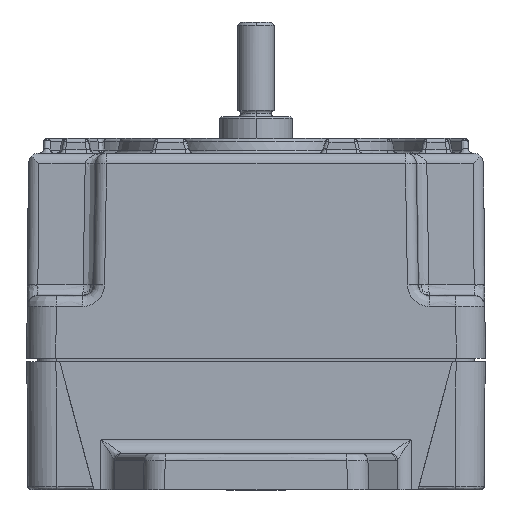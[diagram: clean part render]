
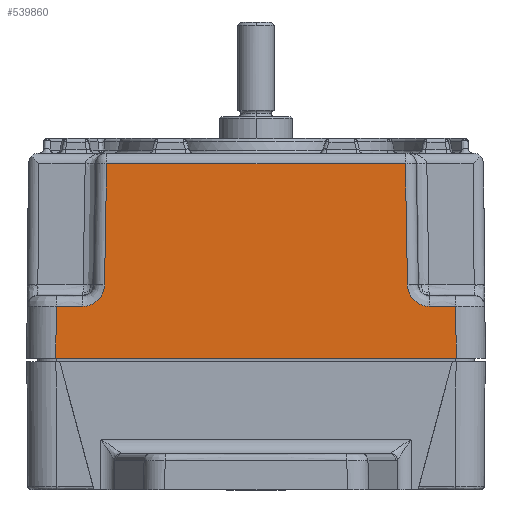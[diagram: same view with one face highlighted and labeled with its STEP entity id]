
A CAD part, left-side view. The second image highlights one B-rep face of the part: STEP entity #539860.
In plain terms, the highlighted planar face has unit normal (-1, 0, 0.009).
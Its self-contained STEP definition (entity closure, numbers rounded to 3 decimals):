
#255090=CARTESIAN_POINT('',(-49.772,20.52,
44.013));
#255100=VERTEX_POINT('',#255090);
#329450=CARTESIAN_POINT('',(-49.943,27.443,
24.433));
#329460=VERTEX_POINT('',#329450);
#385610=CARTESIAN_POINT('',(-49.943,23.77,
24.435));
#385620=VERTEX_POINT('',#385610);
#385650=CARTESIAN_POINT('',(-49.943,23.77,
24.435));
#385660=CARTESIAN_POINT('',(-49.943,23.854,
24.435));
#385670=CARTESIAN_POINT('',(-49.943,23.945,
24.433));
#385680=CARTESIAN_POINT('',(-49.943,24.556,
24.433));
#385690=CARTESIAN_POINT('',(-49.943,25.091,
24.433));
#385700=CARTESIAN_POINT('',(-49.943,26.732,
24.433));
#385710=CARTESIAN_POINT('',(-49.943,27.838,
24.433));
#385720=CARTESIAN_POINT('',(-49.943,28.943,
24.433));
#385730=B_SPLINE_CURVE_WITH_KNOTS('',3,(#385650,#385660,#385670,#385680,
#385690,#385700,#385710,#385720),.UNSPECIFIED.,.F.,.F.,(4,2,2,4),(0.,
0.227,1.833,5.15),.UNSPECIFIED.);
#385740=EDGE_CURVE('',#385620,#329460,#385730,.T.);
#386700=CARTESIAN_POINT('',(-49.917,20.81,
27.407));
#386710=VERTEX_POINT('',#386700);
#386740=CARTESIAN_POINT('',(-49.917,20.81,
27.407));
#386750=CARTESIAN_POINT('',(-49.917,20.811,
27.398));
#386760=CARTESIAN_POINT('',(-49.917,20.811,
27.388));
#386770=CARTESIAN_POINT('',(-49.918,20.811,
27.369));
#386780=CARTESIAN_POINT('',(-49.918,20.811,
27.359));
#386790=CARTESIAN_POINT('',(-49.918,20.811,
27.344));
#386800=CARTESIAN_POINT('',(-49.918,20.812,
27.312));
#386810=CARTESIAN_POINT('',(-49.918,20.814,
27.262));
#386820=CARTESIAN_POINT('',(-49.919,20.817,
27.217));
#386830=CARTESIAN_POINT('',(-49.92,20.826,
27.113));
#386840=CARTESIAN_POINT('',(-49.921,20.836,
27.028));
#386850=CARTESIAN_POINT('',(-49.925,20.923,
26.497));
#386860=CARTESIAN_POINT('',(-49.93,21.129,
25.996));
#386870=CARTESIAN_POINT('',(-49.936,21.737,
25.208));
#386880=CARTESIAN_POINT('',(-49.939,22.136,
24.894));
#386890=CARTESIAN_POINT('',(-49.942,22.816,
24.592));
#386900=CARTESIAN_POINT('',(-49.942,23.068,
24.517));
#386910=CARTESIAN_POINT('',(-49.943,23.35,
24.468));
#386920=CARTESIAN_POINT('',(-49.943,23.405,
24.461));
#386930=CARTESIAN_POINT('',(-49.943,23.556,
24.445));
#386940=CARTESIAN_POINT('',(-49.943,23.667,
24.439));
#386950=CARTESIAN_POINT('',(-49.943,23.77,
24.435));
#386960=B_SPLINE_CURVE_WITH_KNOTS('',3,(#386740,#386750,#386760,#386770,
#386780,#386790,#386800,#386810,#386820,#386830,#386840,#386850,#386860,
#386870,#386880,#386890,#386900,#386910,#386920,#386930,#386940,#386950)
,.UNSPECIFIED.,.F.,.F.,(4,2,2,2,2,2,2,2,2,2,4),(0.,0.466,
0.931,1.088,1.275,1.532,
2.98,4.413,5.122,5.294,
5.596),.UNSPECIFIED.);
#386970=EDGE_CURVE('',#386710,#385620,#386960,.T.);
#387240=CARTESIAN_POINT('',(-49.794,20.563,
41.513));
#387250=DIRECTION('',(-0.009,0.017,
-1.));
#387260=VECTOR('',#387250,1.);
#387270=LINE('',#387240,#387260);
#387280=EDGE_CURVE('',#255100,#386710,#387270,.T.);
#488120=CARTESIAN_POINT('',(-49.943,-27.443,
24.433));
#488130=VERTEX_POINT('',#488120);
#538890=CARTESIAN_POINT('',(-49.943,-23.77,
24.435));
#538900=CARTESIAN_POINT('',(-49.943,-23.854,
24.435));
#538910=CARTESIAN_POINT('',(-49.943,-23.945,
24.433));
#538920=CARTESIAN_POINT('',(-49.943,-24.556,
24.433));
#538930=CARTESIAN_POINT('',(-49.943,-25.091,
24.433));
#538940=CARTESIAN_POINT('',(-49.943,-26.732,
24.433));
#538950=CARTESIAN_POINT('',(-49.943,-27.838,
24.433));
#538960=CARTESIAN_POINT('',(-49.943,-28.943,
24.433));
#538970=B_SPLINE_CURVE_WITH_KNOTS('',3,(#538890,#538900,#538910,#538920,
#538930,#538940,#538950,#538960),.UNSPECIFIED.,.F.,.F.,(4,2,2,4),(0.,
0.227,1.833,5.15),.UNSPECIFIED.);
#538980=CARTESIAN_POINT('',(-49.943,-23.77,
24.435));
#538990=VERTEX_POINT('',#538980);
#539000=EDGE_CURVE('',#538990,#488130,#538970,.T.);
#539120=CARTESIAN_POINT('',(-50.,-7.697,
17.92));
#539130=DIRECTION('',(1.,0.,-0.009));
#539140=DIRECTION('',(0.,-1.,0.));
#539150=AXIS2_PLACEMENT_3D('',#539120,#539130,#539140);
#539160=PLANE('',#539150);
#539170=CARTESIAN_POINT('',(-50.005,7.697,
17.3));
#539180=DIRECTION('',(0.,1.,0.));
#539190=VECTOR('',#539180,1.);
#539200=LINE('',#539170,#539190);
#539210=CARTESIAN_POINT('',(-50.005,-27.506,
17.3));
#539220=VERTEX_POINT('',#539210);
#539230=CARTESIAN_POINT('',(-50.005,27.506,
17.3));
#539240=VERTEX_POINT('',#539230);
#539250=EDGE_CURVE('',#539220,#539240,#539200,.T.);
#539260=ORIENTED_EDGE('',*,*,#539250,.F.);
#539270=CARTESIAN_POINT('',(-49.947,27.447,
24.003));
#539280=DIRECTION('',(-0.009,0.009,
-1.));
#539290=VECTOR('',#539280,1.);
#539300=LINE('',#539270,#539290);
#539310=EDGE_CURVE('',#329460,#539240,#539300,.T.);
#539320=ORIENTED_EDGE('',*,*,#539310,.T.);
#539330=ORIENTED_EDGE('',*,*,#385740,.T.);
#539340=ORIENTED_EDGE('',*,*,#386970,.T.);
#539350=ORIENTED_EDGE('',*,*,#387280,.T.);
#539360=CARTESIAN_POINT('',(-49.772,-7.697,
44.013));
#539370=DIRECTION('',(0.,1.,0.));
#539380=VECTOR('',#539370,1.);
#539390=LINE('',#539360,#539380);
#539400=CARTESIAN_POINT('',(-49.772,-20.52,
44.013));
#539410=VERTEX_POINT('',#539400);
#539420=EDGE_CURVE('',#539410,#255100,#539390,.T.);
#539430=ORIENTED_EDGE('',*,*,#539420,.T.);
#539440=CARTESIAN_POINT('',(-49.794,-20.563,
41.513));
#539450=DIRECTION('',(-0.009,-0.017,
-1.));
#539460=VECTOR('',#539450,1.);
#539470=LINE('',#539440,#539460);
#539480=CARTESIAN_POINT('',(-49.917,-20.81,
27.407));
#539490=VERTEX_POINT('',#539480);
#539500=EDGE_CURVE('',#539410,#539490,#539470,.T.);
#539510=ORIENTED_EDGE('',*,*,#539500,.F.);
#539520=CARTESIAN_POINT('',(-49.917,-20.81,
27.407));
#539530=CARTESIAN_POINT('',(-49.917,-20.811,
27.398));
#539540=CARTESIAN_POINT('',(-49.917,-20.811,
27.388));
#539550=CARTESIAN_POINT('',(-49.918,-20.811,
27.369));
#539560=CARTESIAN_POINT('',(-49.918,-20.811,
27.359));
#539570=CARTESIAN_POINT('',(-49.918,-20.811,
27.344));
#539580=CARTESIAN_POINT('',(-49.918,-20.812,
27.312));
#539590=CARTESIAN_POINT('',(-49.918,-20.814,
27.262));
#539600=CARTESIAN_POINT('',(-49.919,-20.817,
27.217));
#539610=CARTESIAN_POINT('',(-49.92,-20.826,
27.113));
#539620=CARTESIAN_POINT('',(-49.921,-20.836,
27.028));
#539630=CARTESIAN_POINT('',(-49.925,-20.923,
26.497));
#539640=CARTESIAN_POINT('',(-49.93,-21.129,
25.996));
#539650=CARTESIAN_POINT('',(-49.936,-21.737,
25.208));
#539660=CARTESIAN_POINT('',(-49.939,-22.136,
24.894));
#539670=CARTESIAN_POINT('',(-49.942,-22.816,
24.592));
#539680=CARTESIAN_POINT('',(-49.942,-23.068,
24.517));
#539690=CARTESIAN_POINT('',(-49.943,-23.35,
24.468));
#539700=CARTESIAN_POINT('',(-49.943,-23.405,
24.461));
#539710=CARTESIAN_POINT('',(-49.943,-23.556,
24.445));
#539720=CARTESIAN_POINT('',(-49.943,-23.667,
24.439));
#539730=CARTESIAN_POINT('',(-49.943,-23.77,
24.435));
#539740=B_SPLINE_CURVE_WITH_KNOTS('',3,(#539520,#539530,#539540,#539550,
#539560,#539570,#539580,#539590,#539600,#539610,#539620,#539630,#539640,
#539650,#539660,#539670,#539680,#539690,#539700,#539710,#539720,#539730)
,.UNSPECIFIED.,.F.,.F.,(4,2,2,2,2,2,2,2,2,2,4),(0.,0.466,
0.931,1.088,1.275,1.532,
2.98,4.413,5.122,5.294,
5.596),.UNSPECIFIED.);
#539750=EDGE_CURVE('',#539490,#538990,#539740,.T.);
#539760=ORIENTED_EDGE('',*,*,#539750,.F.);
#539770=ORIENTED_EDGE('',*,*,#539000,.F.);
#539780=CARTESIAN_POINT('',(-49.947,-27.447,
24.003));
#539790=DIRECTION('',(-0.009,-0.009,
-1.));
#539800=VECTOR('',#539790,1.);
#539810=LINE('',#539780,#539800);
#539820=EDGE_CURVE('',#488130,#539220,#539810,.T.);
#539830=ORIENTED_EDGE('',*,*,#539820,.F.);
#539840=EDGE_LOOP('',(#539830,#539770,#539760,#539510,#539430,#539350,
#539340,#539330,#539320,#539260));
#539850=FACE_OUTER_BOUND('',#539840,.T.);
#539860=ADVANCED_FACE('',(#539850),#539160,.F.);
